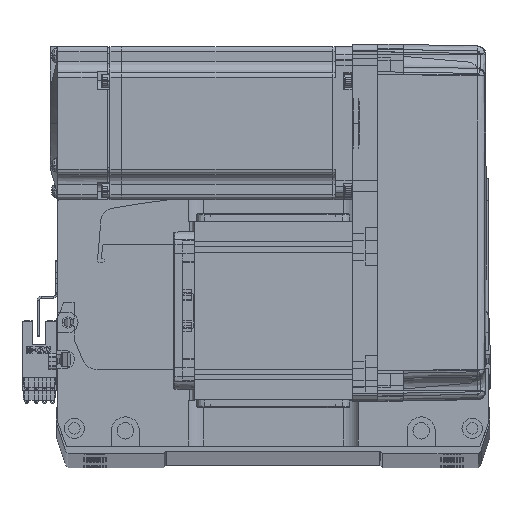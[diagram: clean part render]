
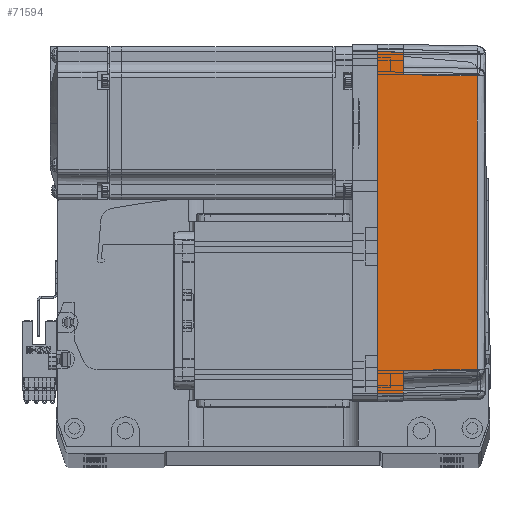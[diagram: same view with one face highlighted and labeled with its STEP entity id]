
A CAD part, top view. The second image highlights one B-rep face of the part: STEP entity #71594.
In plain terms, the highlighted planar face has unit normal (0.018, 0, 1) as drawn and (0, -1, 0.017) by its records, which use the part's own axes.
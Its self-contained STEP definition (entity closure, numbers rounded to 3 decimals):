
#303 = VECTOR ( 'NONE', #69237, 1000. ) ;
#491 = EDGE_CURVE ( 'NONE', #33373, #26476, #50388, .T. ) ;
#2985 = EDGE_CURVE ( 'NONE', #33392, #27829, #4609, .T. ) ;
#4609 = LINE ( 'NONE', #8109, #303 ) ;
#6219 = LINE ( 'NONE', #44319, #64010 ) ;
#6271 = AXIS2_PLACEMENT_3D ( 'NONE', #60419, #27817, #55113 ) ;
#6993 = CARTESIAN_POINT ( 'NONE',  ( 57.495, -35.32, 38.985 ) ) ;
#7929 = ORIENTED_EDGE ( 'NONE', *, *, #41575, .F. ) ;
#8109 = CARTESIAN_POINT ( 'NONE',  ( 70., -35.825, 10. ) ) ;
#8157 = EDGE_LOOP ( 'NONE', ( #60480, #36734, #49566, #42014, #24670, #48960, #7929, #8384 ) ) ;
#8384 = ORIENTED_EDGE ( 'NONE', *, *, #12875, .F. ) ;
#8427 = EDGE_CURVE ( 'NONE', #17544, #61819, #31302, .T. ) ;
#8553 = FACE_OUTER_BOUND ( 'NONE', #8157, .T. ) ;
#9003 = DIRECTION ( 'NONE',  ( 0.017, 0.017, 1. ) ) ;
#9349 = CARTESIAN_POINT ( 'NONE',  ( -66.826, -35.825, 10. ) ) ;
#10773 = CARTESIAN_POINT ( 'NONE',  ( 58., -35.825, 10. ) ) ;
#12875 = EDGE_CURVE ( 'NONE', #33373, #64565, #70984, .T. ) ;
#16527 = LINE ( 'NONE', #31752, #24282 ) ;
#17544 = VERTEX_POINT ( 'NONE', #6993 ) ;
#17980 = CARTESIAN_POINT ( 'NONE',  ( 58., -35.825, 10. ) ) ;
#20870 = VERTEX_POINT ( 'NONE', #17980 ) ;
#24282 = VECTOR ( 'NONE', #48150, 1000. ) ;
#24670 = ORIENTED_EDGE ( 'NONE', *, *, #69300, .T. ) ;
#26476 = VERTEX_POINT ( 'NONE', #54680 ) ;
#26906 = CARTESIAN_POINT ( 'NONE',  ( 67., -36., 0. ) ) ;
#27116 = PLANE ( 'NONE',  #6271 ) ;
#27817 = DIRECTION ( 'NONE',  ( 0., -1., 0.017 ) ) ;
#27829 = VERTEX_POINT ( 'NONE', #9349 ) ;
#31302 = B_SPLINE_CURVE_WITH_KNOTS ( 'NONE', 3,
 ( #32318, #44137, #60553, #60074 ),
 .UNSPECIFIED., .F., .F.,
 ( 4, 4 ),
 ( 0., 1. ),
 .UNSPECIFIED. ) ;
#31752 = CARTESIAN_POINT ( 'NONE',  ( 70., -35.825, 10. ) ) ;
#32318 = CARTESIAN_POINT ( 'NONE',  ( 57.495, -35.32, 38.985 ) ) ;
#32733 = DIRECTION ( 'NONE',  ( -1., 0., 0. ) ) ;
#33373 = VERTEX_POINT ( 'NONE', #26906 ) ;
#33392 = VERTEX_POINT ( 'NONE', #33419 ) ;
#33419 = CARTESIAN_POINT ( 'NONE',  ( -58., -35.825, 10. ) ) ;
#36734 = ORIENTED_EDGE ( 'NONE', *, *, #41560, .T. ) ;
#37277 = VECTOR ( 'NONE', #9003, 1000. ) ;
#40480 = DIRECTION ( 'NONE',  ( -0.017, 0.017, 1. ) ) ;
#41560 = EDGE_CURVE ( 'NONE', #26476, #20870, #16527, .T. ) ;
#41575 = EDGE_CURVE ( 'NONE', #64565, #27829, #69192, .T. ) ;
#41905 = LINE ( 'NONE', #10773, #42735 ) ;
#42014 = ORIENTED_EDGE ( 'NONE', *, *, #8427, .T. ) ;
#42638 = VECTOR ( 'NONE', #40480, 1000. ) ;
#42735 = VECTOR ( 'NONE', #65592, 1000. ) ;
#44137 = CARTESIAN_POINT ( 'NONE',  ( 19.165, -35.316, 39.181 ) ) ;
#44319 = CARTESIAN_POINT ( 'NONE',  ( -57.495, -35.32, 38.985 ) ) ;
#45537 = CARTESIAN_POINT ( 'NONE',  ( 67., -36., 0. ) ) ;
#48150 = DIRECTION ( 'NONE',  ( -1., 0., 0. ) ) ;
#48960 = ORIENTED_EDGE ( 'NONE', *, *, #2985, .T. ) ;
#49566 = ORIENTED_EDGE ( 'NONE', *, *, #57101, .T. ) ;
#50388 = LINE ( 'NONE', #45537, #42638 ) ;
#54680 = CARTESIAN_POINT ( 'NONE',  ( 66.826, -35.825, 10. ) ) ;
#55113 = DIRECTION ( 'NONE',  ( 0., -0.017, -1. ) ) ;
#55448 = DIRECTION ( 'NONE',  ( -0.017, -0.017, -1. ) ) ;
#56270 = VECTOR ( 'NONE', #32733, 1000. ) ;
#56394 = CARTESIAN_POINT ( 'NONE',  ( 0., -36., 0. ) ) ;
#57101 = EDGE_CURVE ( 'NONE', #20870, #17544, #41905, .T. ) ;
#60074 = CARTESIAN_POINT ( 'NONE',  ( -57.495, -35.32, 38.985 ) ) ;
#60419 = CARTESIAN_POINT ( 'NONE',  ( 70., -36., 0. ) ) ;
#60480 = ORIENTED_EDGE ( 'NONE', *, *, #491, .T. ) ;
#60553 = CARTESIAN_POINT ( 'NONE',  ( -19.165, -35.316, 39.181 ) ) ;
#61819 = VERTEX_POINT ( 'NONE', #64989 ) ;
#64010 = VECTOR ( 'NONE', #55448, 1000. ) ;
#64565 = VERTEX_POINT ( 'NONE', #66913 ) ;
#64989 = CARTESIAN_POINT ( 'NONE',  ( -57.495, -35.32, 38.985 ) ) ;
#65592 = DIRECTION ( 'NONE',  ( -0.017, 0.017, 1. ) ) ;
#66913 = CARTESIAN_POINT ( 'NONE',  ( -67., -36., 0. ) ) ;
#69192 = LINE ( 'NONE', #70635, #37277 ) ;
#69237 = DIRECTION ( 'NONE',  ( -1., 0., 0. ) ) ;
#69300 = EDGE_CURVE ( 'NONE', #61819, #33392, #6219, .T. ) ;
#70635 = CARTESIAN_POINT ( 'NONE',  ( -66.959, -35.958, 2.39 ) ) ;
#70984 = LINE ( 'NONE', #56394, #56270 ) ;
#71594 = ADVANCED_FACE ( 'NONE', ( #8553 ), #27116, .T. ) ;
